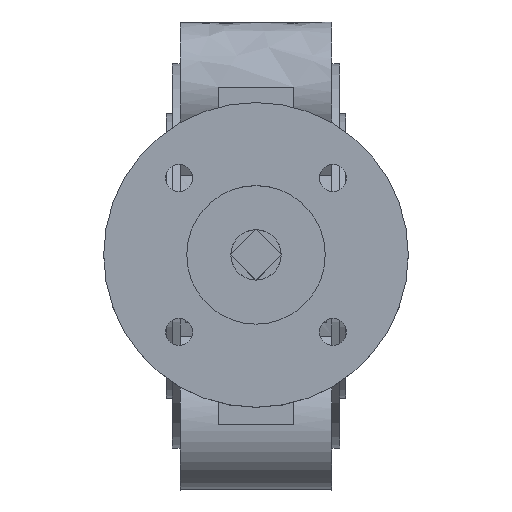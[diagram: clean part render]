
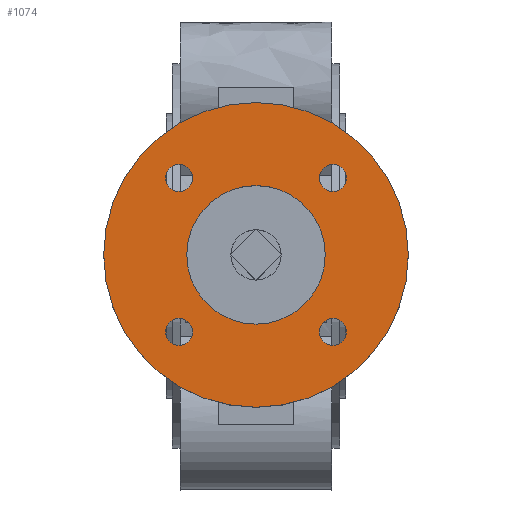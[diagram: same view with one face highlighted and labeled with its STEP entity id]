
A CAD part, top view. The second image highlights one B-rep face of the part: STEP entity #1074.
In plain terms, the highlighted planar face has unit normal (0, 0, 1).
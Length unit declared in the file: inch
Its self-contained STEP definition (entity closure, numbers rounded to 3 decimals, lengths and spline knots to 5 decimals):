
#928=CARTESIAN_POINT('',(1.60057,-0.76557,9.43586));
#929=VERTEX_POINT('',#928);
#930=CARTESIAN_POINT('',(1.46557,-0.76557,9.43586));
#931=DIRECTION('',(0.0,0.0,-1.0));
#932=DIRECTION('',(1.0,0.0,0.0));
#933=AXIS2_PLACEMENT_3D('',#930,#931,#932);
#934=CIRCLE('',#933,0.135);
#935=EDGE_CURVE('',#929,#929,#934,.T.);
#956=CARTESIAN_POINT('',(0.06943,0.76557,9.43586));
#957=VERTEX_POINT('',#956);
#958=CARTESIAN_POINT('',(-0.06557,0.76557,9.43586));
#959=DIRECTION('',(0.0,0.0,-1.0));
#960=DIRECTION('',(1.0,0.0,0.0));
#961=AXIS2_PLACEMENT_3D('',#958,#959,#960);
#962=CIRCLE('',#961,0.135);
#963=EDGE_CURVE('',#957,#957,#962,.T.);
#984=CARTESIAN_POINT('',(0.06943,-0.76557,9.43586));
#985=VERTEX_POINT('',#984);
#986=CARTESIAN_POINT('',(-0.06557,-0.76557,9.43586));
#987=DIRECTION('',(0.0,0.0,-1.0));
#988=DIRECTION('',(1.0,0.0,0.0));
#989=AXIS2_PLACEMENT_3D('',#986,#987,#988);
#990=CIRCLE('',#989,0.135);
#991=EDGE_CURVE('',#985,#985,#990,.T.);
#1012=CARTESIAN_POINT('',(1.60057,0.76557,9.43586));
#1013=VERTEX_POINT('',#1012);
#1014=CARTESIAN_POINT('',(1.46557,0.76557,9.43586));
#1015=DIRECTION('',(0.0,0.0,-1.0));
#1016=DIRECTION('',(1.0,0.0,0.0));
#1017=AXIS2_PLACEMENT_3D('',#1014,#1015,#1016);
#1018=CIRCLE('',#1017,0.135);
#1019=EDGE_CURVE('',#1013,#1013,#1018,.T.);
#1035=CARTESIAN_POINT('',(0.7,0.0,9.43586));
#1036=DIRECTION('',(0.0,0.0,1.0));
#1037=DIRECTION('',(1.0,0.0,0.0));
#1038=AXIS2_PLACEMENT_3D('',#1035,#1036,#1037);
#1039=PLANE('',#1038);
#1040=CARTESIAN_POINT('',(2.21574,0.0,9.43586));
#1041=VERTEX_POINT('',#1040);
#1042=CARTESIAN_POINT('',(0.7,0.0,9.43586));
#1043=DIRECTION('',(0.0,0.0,-1.0));
#1044=DIRECTION('',(1.0,0.0,0.0));
#1045=AXIS2_PLACEMENT_3D('',#1042,#1043,#1044);
#1046=CIRCLE('',#1045,1.51575);
#1047=EDGE_CURVE('',#1041,#1041,#1046,.T.);
#1048=ORIENTED_EDGE('',*,*,#1047,.F.);
#1049=EDGE_LOOP('',(#1048));
#1050=FACE_OUTER_BOUND('',#1049,.T.);
#1051=CARTESIAN_POINT('',(1.38897,0.0,9.43586));
#1052=VERTEX_POINT('',#1051);
#1053=CARTESIAN_POINT('',(0.7,0.0,9.43586));
#1054=DIRECTION('',(0.0,0.0,-1.0));
#1055=DIRECTION('',(1.0,0.0,0.0));
#1056=AXIS2_PLACEMENT_3D('',#1053,#1054,#1055);
#1057=CIRCLE('',#1056,0.68898);
#1058=EDGE_CURVE('',#1052,#1052,#1057,.T.);
#1059=ORIENTED_EDGE('',*,*,#1058,.T.);
#1060=EDGE_LOOP('',(#1059));
#1061=FACE_BOUND('',#1060,.T.);
#1062=ORIENTED_EDGE('',*,*,#1019,.T.);
#1063=EDGE_LOOP('',(#1062));
#1064=FACE_BOUND('',#1063,.T.);
#1065=ORIENTED_EDGE('',*,*,#991,.T.);
#1066=EDGE_LOOP('',(#1065));
#1067=FACE_BOUND('',#1066,.T.);
#1068=ORIENTED_EDGE('',*,*,#963,.T.);
#1069=EDGE_LOOP('',(#1068));
#1070=FACE_BOUND('',#1069,.T.);
#1071=ORIENTED_EDGE('',*,*,#935,.T.);
#1072=EDGE_LOOP('',(#1071));
#1073=FACE_BOUND('',#1072,.T.);
#1074=ADVANCED_FACE('',(#1050,#1061,#1064,#1067,#1070,#1073),#1039,.T.);
